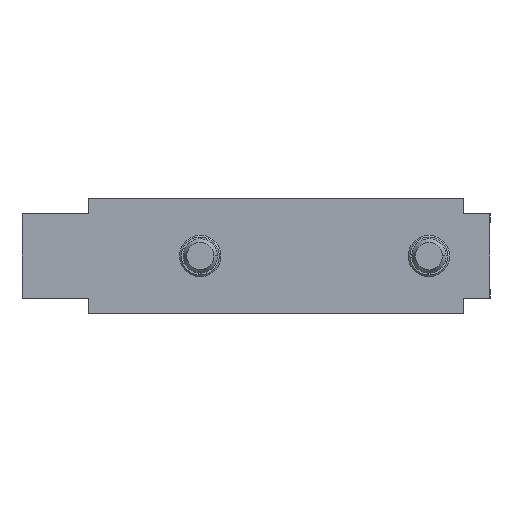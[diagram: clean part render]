
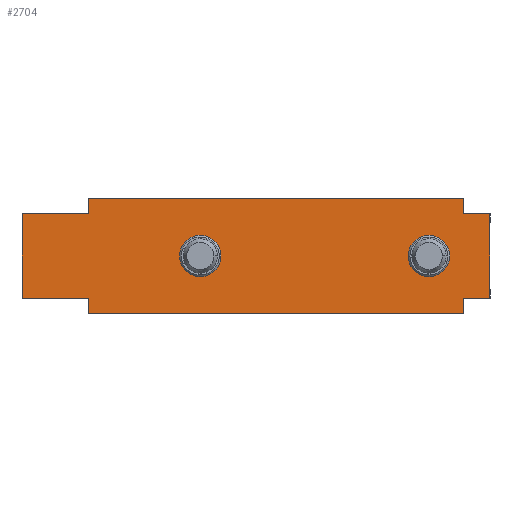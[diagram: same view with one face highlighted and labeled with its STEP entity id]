
A CAD part, left-side view. The second image highlights one B-rep face of the part: STEP entity #2704.
In plain terms, the highlighted planar face has unit normal (-1, 0, 0).
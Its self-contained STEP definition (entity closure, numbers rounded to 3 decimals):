
#15 = LINE ( 'NONE', #2435, #47 ) ;
#28 = VECTOR ( 'NONE', #473, 1000. ) ;
#32 = LINE ( 'NONE', #476, #28 ) ;
#47 = VECTOR ( 'NONE', #2414, 1000. ) ;
#121 = EDGE_LOOP ( 'NONE', ( #1691, #1692 ) ) ;
#122 = EDGE_LOOP ( 'NONE', ( #1693, #1694, #1695, #1696, #1698, #1699, #1700, #1701, #1702, #1703, #1704, #1705 ) ) ;
#235 = EDGE_LOOP ( 'NONE', ( #1689, #1690 ) ) ;
#336 = CIRCLE ( 'NONE', #591, 2.9 ) ;
#473 = DIRECTION ( 'NONE',  ( 0., 0., -1. ) ) ;
#476 = CARTESIAN_POINT ( 'NONE',  ( 0.65, -8.55, 5.9 ) ) ;
#552 = CARTESIAN_POINT ( 'NONE',  ( 0.65, 0., 0. ) ) ;
#565 = DIRECTION ( 'NONE',  ( -1., 0., 0. ) ) ;
#566 = DIRECTION ( 'NONE',  ( 0., 1., 0. ) ) ;
#591 = AXIS2_PLACEMENT_3D ( 'NONE', #552, #565, #566 ) ;
#615 = EDGE_CURVE ( 'NONE', #1397, #1443, #336, .T. ) ;
#642 = AXIS2_PLACEMENT_3D ( 'NONE', #2288, #2284, #2283 ) ;
#647 = EDGE_CURVE ( 'NONE', #1341, #1379, #32, .T. ) ;
#688 = EDGE_CURVE ( 'NONE', #1412, #1381, #15, .T. ) ;
#717 = EDGE_CURVE ( 'NONE', #1436, #1437, #1965, .T. ) ;
#732 = EDGE_CURVE ( 'NONE', #1456, #1420, #1966, .T. ) ;
#759 = AXIS2_PLACEMENT_3D ( 'NONE', #2634, #2633, #2632 ) ;
#793 = EDGE_CURVE ( 'NONE', #1433, #1416, #1197, .T. ) ;
#806 = EDGE_CURVE ( 'NONE', #1431, #1412, #1230, .T. ) ;
#807 = EDGE_CURVE ( 'NONE', #1381, #1433, #1232, .T. ) ;
#810 = EDGE_CURVE ( 'NONE', #1443, #1397, #1240, .T. ) ;
#818 = EDGE_CURVE ( 'NONE', #1437, #1422, #1239, .T. ) ;
#825 = EDGE_CURVE ( 'NONE', #1431, #1444, #1256, .T. ) ;
#853 = EDGE_CURVE ( 'NONE', #1379, #1444, #1288, .T. ) ;
#880 = EDGE_CURVE ( 'NONE', #1436, #1341, #1490, .T. ) ;
#888 = AXIS2_PLACEMENT_3D ( 'NONE', #2170, #2091, #2119 ) ;
#894 = EDGE_CURVE ( 'NONE', #1417, #1422, #1516, .T. ) ;
#923 = AXIS2_PLACEMENT_3D ( 'NONE', #2522, #2517, #2516 ) ;
#932 = EDGE_CURVE ( 'NONE', #1420, #1456, #1562, .T. ) ;
#951 = EDGE_CURVE ( 'NONE', #1416, #1417, #1581, .T. ) ;
#1059 = FACE_BOUND ( 'NONE', #235, .T. ) ;
#1062 = FACE_BOUND ( 'NONE', #121, .T. ) ;
#1064 = FACE_OUTER_BOUND ( 'NONE', #122, .T. ) ;
#1197 = LINE ( 'NONE', #2549, #1214 ) ;
#1214 = VECTOR ( 'NONE', #2544, 1000. ) ;
#1230 = LINE ( 'NONE', #2527, #1231 ) ;
#1231 = VECTOR ( 'NONE', #2526, 1000. ) ;
#1232 = LINE ( 'NONE', #2524, #1233 ) ;
#1233 = VECTOR ( 'NONE', #2523, 1000. ) ;
#1239 = LINE ( 'NONE', #2525, #1243 ) ;
#1240 = CIRCLE ( 'NONE', #923, 2.9 ) ;
#1243 = VECTOR ( 'NONE', #2508, 1000. ) ;
#1256 = LINE ( 'NONE', #2487, #1257 ) ;
#1257 = VECTOR ( 'NONE', #2486, 1000. ) ;
#1288 = LINE ( 'NONE', #2437, #1289 ) ;
#1289 = VECTOR ( 'NONE', #2436, 1000. ) ;
#1341 = VERTEX_POINT ( 'NONE', #2993 ) ;
#1379 = VERTEX_POINT ( 'NONE', #3031 ) ;
#1381 = VERTEX_POINT ( 'NONE', #3033 ) ;
#1397 = VERTEX_POINT ( 'NONE', #3049 ) ;
#1412 = VERTEX_POINT ( 'NONE', #3064 ) ;
#1416 = VERTEX_POINT ( 'NONE', #3068 ) ;
#1417 = VERTEX_POINT ( 'NONE', #3069 ) ;
#1420 = VERTEX_POINT ( 'NONE', #3072 ) ;
#1422 = VERTEX_POINT ( 'NONE', #3070 ) ;
#1431 = VERTEX_POINT ( 'NONE', #3081 ) ;
#1433 = VERTEX_POINT ( 'NONE', #3087 ) ;
#1436 = VERTEX_POINT ( 'NONE', #3090 ) ;
#1437 = VERTEX_POINT ( 'NONE', #3089 ) ;
#1443 = VERTEX_POINT ( 'NONE', #2927 ) ;
#1444 = VERTEX_POINT ( 'NONE', #2926 ) ;
#1456 = VERTEX_POINT ( 'NONE', #2922 ) ;
#1490 = LINE ( 'NONE', #2391, #1499 ) ;
#1499 = VECTOR ( 'NONE', #2387, 1000. ) ;
#1516 = LINE ( 'NONE', #2359, #1517 ) ;
#1517 = VECTOR ( 'NONE', #2358, 1000. ) ;
#1562 = CIRCLE ( 'NONE', #642, 2.9 ) ;
#1581 = LINE ( 'NONE', #2255, #1582 ) ;
#1582 = VECTOR ( 'NONE', #2254, 1000. ) ;
#1689 = ORIENTED_EDGE ( 'NONE', *, *, #932, .F. ) ;
#1690 = ORIENTED_EDGE ( 'NONE', *, *, #732, .F. ) ;
#1691 = ORIENTED_EDGE ( 'NONE', *, *, #810, .F. ) ;
#1692 = ORIENTED_EDGE ( 'NONE', *, *, #615, .F. ) ;
#1693 = ORIENTED_EDGE ( 'NONE', *, *, #818, .T. ) ;
#1694 = ORIENTED_EDGE ( 'NONE', *, *, #894, .F. ) ;
#1695 = ORIENTED_EDGE ( 'NONE', *, *, #951, .F. ) ;
#1696 = ORIENTED_EDGE ( 'NONE', *, *, #793, .F. ) ;
#1698 = ORIENTED_EDGE ( 'NONE', *, *, #807, .F. ) ;
#1699 = ORIENTED_EDGE ( 'NONE', *, *, #688, .F. ) ;
#1700 = ORIENTED_EDGE ( 'NONE', *, *, #806, .F. ) ;
#1701 = ORIENTED_EDGE ( 'NONE', *, *, #825, .T. ) ;
#1702 = ORIENTED_EDGE ( 'NONE', *, *, #853, .F. ) ;
#1703 = ORIENTED_EDGE ( 'NONE', *, *, #647, .F. ) ;
#1704 = ORIENTED_EDGE ( 'NONE', *, *, #880, .F. ) ;
#1705 = ORIENTED_EDGE ( 'NONE', *, *, #717, .T. ) ;
#1965 = LINE ( 'NONE', #2662, #3126 ) ;
#1966 = CIRCLE ( 'NONE', #759, 2.9 ) ;
#2091 = DIRECTION ( 'NONE',  ( 1., 0., 0. ) ) ;
#2119 = DIRECTION ( 'NONE',  ( 0., -1., 0. ) ) ;
#2157 = PLANE ( 'NONE',  #888 ) ;
#2170 = CARTESIAN_POINT ( 'NONE',  ( 0.65, 47.6, -8. ) ) ;
#2254 = DIRECTION ( 'NONE',  ( 0., -1., 0. ) ) ;
#2255 = CARTESIAN_POINT ( 'NONE',  ( 0.65, 47.6, 5.9 ) ) ;
#2283 = DIRECTION ( 'NONE',  ( 0., 1., 0. ) ) ;
#2284 = DIRECTION ( 'NONE',  ( -1., 0., 0. ) ) ;
#2288 = CARTESIAN_POINT ( 'NONE',  ( 0.65, 32., 0. ) ) ;
#2358 = DIRECTION ( 'NONE',  ( 0., 0., 1. ) ) ;
#2359 = CARTESIAN_POINT ( 'NONE',  ( 0.65, 47.6, -8. ) ) ;
#2387 = DIRECTION ( 'NONE',  ( 0., -1., 0. ) ) ;
#2391 = CARTESIAN_POINT ( 'NONE',  ( 0.65, -8.55, 5.9 ) ) ;
#2414 = DIRECTION ( 'NONE',  ( 0., 0., 1. ) ) ;
#2435 = CARTESIAN_POINT ( 'NONE',  ( 0.65, 47.6, -8. ) ) ;
#2436 = DIRECTION ( 'NONE',  ( 0., 1., 0. ) ) ;
#2437 = CARTESIAN_POINT ( 'NONE',  ( 0.65, -8.55, -5.9 ) ) ;
#2486 = DIRECTION ( 'NONE',  ( 0., 0., 1. ) ) ;
#2487 = CARTESIAN_POINT ( 'NONE',  ( 0.65, -4.9, -8. ) ) ;
#2508 = DIRECTION ( 'NONE',  ( 0., 1., 0. ) ) ;
#2516 = DIRECTION ( 'NONE',  ( 0., 1., 0. ) ) ;
#2517 = DIRECTION ( 'NONE',  ( -1., 0., 0. ) ) ;
#2522 = CARTESIAN_POINT ( 'NONE',  ( 0.65, 0., 0. ) ) ;
#2523 = DIRECTION ( 'NONE',  ( 0., 1., 0. ) ) ;
#2524 = CARTESIAN_POINT ( 'NONE',  ( 0.65, 47.6, -5.9 ) ) ;
#2525 = CARTESIAN_POINT ( 'NONE',  ( 0.65, 47.6, 8. ) ) ;
#2526 = DIRECTION ( 'NONE',  ( 0., 1., 0. ) ) ;
#2527 = CARTESIAN_POINT ( 'NONE',  ( 0.65, 47.6, -8. ) ) ;
#2544 = DIRECTION ( 'NONE',  ( 0., 0., 1. ) ) ;
#2549 = CARTESIAN_POINT ( 'NONE',  ( 0.65, 56.95, 5.9 ) ) ;
#2632 = DIRECTION ( 'NONE',  ( 0., 1., 0. ) ) ;
#2633 = DIRECTION ( 'NONE',  ( -1., 0., 0. ) ) ;
#2634 = CARTESIAN_POINT ( 'NONE',  ( 0.65, 32., 0. ) ) ;
#2660 = DIRECTION ( 'NONE',  ( 0., 0., 1. ) ) ;
#2662 = CARTESIAN_POINT ( 'NONE',  ( 0.65, -4.9, -8. ) ) ;
#2704 = ADVANCED_FACE ( 'NONE', ( #1059, #1062, #1064 ), #2157, .F. ) ;
#2922 = CARTESIAN_POINT ( 'NONE',  ( 0.65, 29.1, 0. ) ) ;
#2926 = CARTESIAN_POINT ( 'NONE',  ( 0.65, -4.9, -5.9 ) ) ;
#2927 = CARTESIAN_POINT ( 'NONE',  ( 0.65, 2.9, 0. ) ) ;
#2993 = CARTESIAN_POINT ( 'NONE',  ( 0.65, -8.55, 5.9 ) ) ;
#3031 = CARTESIAN_POINT ( 'NONE',  ( 0.65, -8.55, -5.9 ) ) ;
#3033 = CARTESIAN_POINT ( 'NONE',  ( 0.65, 47.6, -5.9 ) ) ;
#3049 = CARTESIAN_POINT ( 'NONE',  ( 0.65, -2.9, 0. ) ) ;
#3064 = CARTESIAN_POINT ( 'NONE',  ( 0.65, 47.6, -8. ) ) ;
#3068 = CARTESIAN_POINT ( 'NONE',  ( 0.65, 56.95, 5.9 ) ) ;
#3069 = CARTESIAN_POINT ( 'NONE',  ( 0.65, 47.6, 5.9 ) ) ;
#3070 = CARTESIAN_POINT ( 'NONE',  ( 0.65, 47.6, 8. ) ) ;
#3072 = CARTESIAN_POINT ( 'NONE',  ( 0.65, 34.9, 0. ) ) ;
#3081 = CARTESIAN_POINT ( 'NONE',  ( 0.65, -4.9, -8. ) ) ;
#3087 = CARTESIAN_POINT ( 'NONE',  ( 0.65, 56.95, -5.9 ) ) ;
#3089 = CARTESIAN_POINT ( 'NONE',  ( 0.65, -4.9, 8. ) ) ;
#3090 = CARTESIAN_POINT ( 'NONE',  ( 0.65, -4.9, 5.9 ) ) ;
#3126 = VECTOR ( 'NONE', #2660, 1000. ) ;
